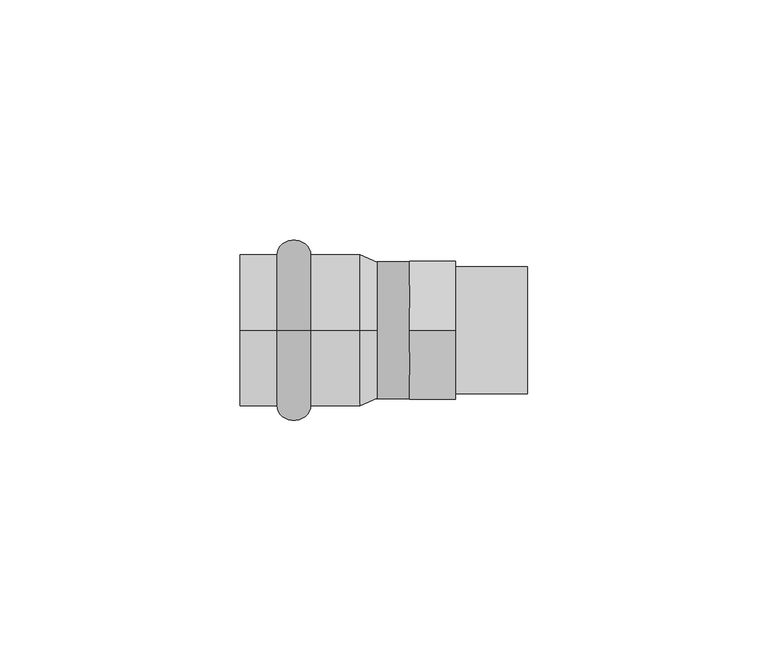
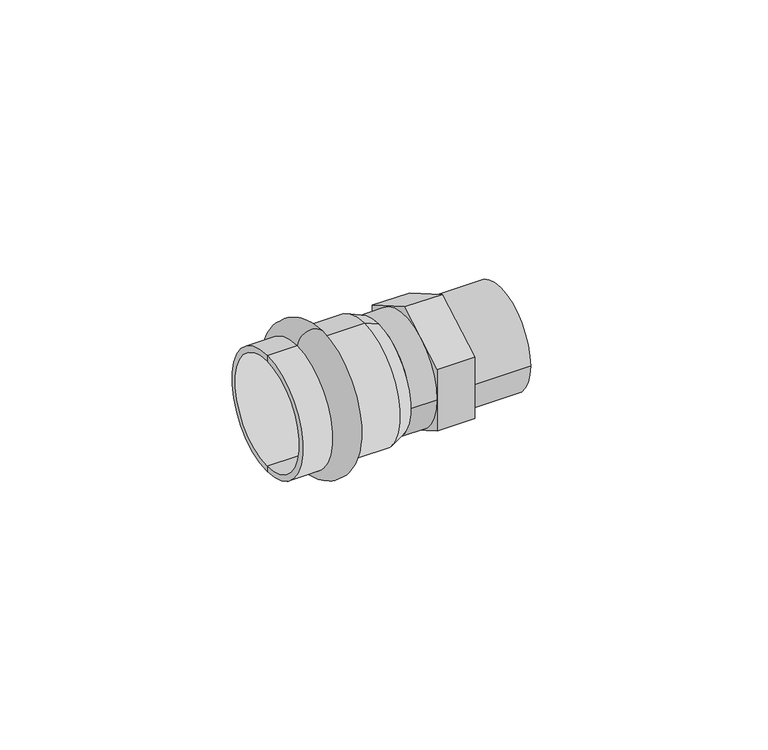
"""IFC4 building model written with IfcOpenShell, lengths in millimetres: pipe fitting geometry."""

from ifc_helpers import new_model, si_unit, point, frame, origin, origin_2d, place, context, project, spatial, polyline, circle_curve, ellipse_curve, trimmed, segment, composite_curve, outline, extrude, source, transform, mapped, element, save
from ifc_brep_helpers import plane_surface, cylinder_surface, revolved_surface, advanced_brep


def pipe_fitting_69dbfc6c(model_context):
    return source(origin(), model_context, "Body", "SolidModel", [
        advanced_brep(
        [(-17.3, 0.0, 15.75), (-17.3, 0.0, -15.75), (-10.3, 0.0, -15.75), (-10.3, 0.0, 15.75)],
        [
            (0, 1, circle_curve(frame((-17.3, 0.0, 0.0), z_axis=(-1.0, 0.0, 0.0), x_axis=(0.0, 0.0, -1.0)), 15.75)),
            (1, 2),
            (2, 3, circle_curve(frame((-10.3, 0.0, 0.0), z_axis=(1.0, 0.0, 0.0), x_axis=(0.0, 0.0, -1.0)), 15.75)),
            (3, 0),
            (1, 0, circle_curve(frame((-17.3, 0.0, 0.0), z_axis=(-1.0, 0.0, 0.0), x_axis=(0.0, 0.0, -1.0)), 15.75)),
            (3, 2, circle_curve(frame((-10.3, 0.0, 0.0), z_axis=(1.0, 0.0, 0.0), x_axis=(0.0, 0.0, -1.0)), 15.75)),
            (2, 1, ellipse_curve(frame((-13.8, 0.0, -15.75), z_axis=(0.0, 1.0, 0.0), x_axis=(-1.0, 0.0, 0.0)), 3.5, 3.1)),
            (0, 3, ellipse_curve(frame((-13.8, 0.0, 15.75), z_axis=(0.0, 1.0, 0.0), x_axis=(-1.0, 0.0, 0.0)), 3.5, 3.1)),
        ],
        [
            revolved_surface(polyline([(-10.3, 0.0, -15.75), (-17.3, 0.0, -15.75)]), (2.7, 0.0, 0.0), (1.0, 0.0, 0.0)),
            revolved_surface(trimmed(ellipse_curve(frame((-13.8, 0.0, -15.75), z_axis=(0.0, -1.0, 0.0), x_axis=(-1.0, 0.0, 0.0)), 3.5, 3.1), [point((-17.3, 0.0, -15.75))], [point((-10.3, 0.0, -15.75))], True, "CARTESIAN"), (2.7, 0.0, 0.0), (1.0, 0.0, 0.0)),
        ],
        [
            (0, [[1, 2, 3, 4]]),
            (0, [[5, -4, 6, -2]]),
            (1, [[-3, 7, -1, 8]]),
            (1, [[-6, -8, -5, -7]]),
        ],
    ),
        advanced_brep(
        [(3.5337785, 0.0, 14.25), (3.5337785, 0.0, -14.25), (0.0, 0.0, -15.75), (0.0, 0.0, 15.75), (-25.0, 0.0, 14.25), (-25.0, 0.0, -14.25), (-25.0, 0.0, 15.75), (-25.0, 0.0, -15.75)],
        [
            (0, 1, circle_curve(frame((3.5337785, 0.0, 0.0), z_axis=(-1.0, 0.0, 0.0), x_axis=(0.0, 0.0, -1.0)), 14.25)),
            (1, 2),
            (2, 3, circle_curve(frame((0.0, 0.0, 0.0), z_axis=(1.0, 0.0, 0.0), x_axis=(0.0, 0.0, -1.0)), 15.75)),
            (3, 0),
            (1, 0, circle_curve(frame((3.5337785, 0.0, 0.0), z_axis=(-1.0, 0.0, 0.0), x_axis=(0.0, 0.0, -1.0)), 14.25)),
            (3, 2, circle_curve(frame((0.0, 0.0, 0.0), z_axis=(1.0, 0.0, 0.0), x_axis=(0.0, 0.0, -1.0)), 15.75)),
            (4, 5, circle_curve(frame((-25.0, 0.0, 0.0), z_axis=(-1.0, 0.0, 0.0), x_axis=(0.0, 0.0, -1.0)), 14.25)),
            (5, 1),
            (0, 4),
            (5, 4, circle_curve(frame((-25.0, 0.0, 0.0), z_axis=(-1.0, 0.0, 0.0), x_axis=(0.0, 0.0, -1.0)), 14.25)),
            (6, 7, circle_curve(frame((-25.0, 0.0, 0.0), z_axis=(-1.0, 0.0, 0.0), x_axis=(0.0, 0.0, -1.0)), 15.75)),
            (7, 5),
            (4, 6),
            (7, 6, circle_curve(frame((-25.0, 0.0, 0.0), z_axis=(-1.0, 0.0, 0.0), x_axis=(0.0, 0.0, -1.0)), 15.75)),
            (2, 7),
            (6, 3),
        ],
        [
            revolved_surface(polyline([(0.0, 0.0, -15.75), (3.5337785, 0.0, -14.25)]), (2.7, 0.0, 0.0), (1.0, 0.0, 0.0)),
            revolved_surface(polyline([(3.5337785, 0.0, -14.25), (-25.0, 0.0, -14.25)]), (2.7, 0.0, 0.0), (1.0, 0.0, 0.0)),
            plane_surface(frame((-25.0, 0.0, 0.0), z_axis=(-1.0, 0.0, 0.0), x_axis=(0.0, 0.0, -1.0))),
            cylinder_surface(frame((2.7, 0.0, 0.0), z_axis=(1.0, 0.0, 0.0), x_axis=(0.0, 0.0, -1.0)), 15.75),
        ],
        [
            (0, [[1, 2, 3, 4]]),
            (0, [[5, -4, 6, -2]]),
            (1, [[7, 8, -1, 9]]),
            (1, [[10, -9, -5, -8]]),
            (2, [[11, 12, -7, 13]]),
            (2, [[14, -13, -10, -12]]),
            (3, [[-3, 15, -11, 16]]),
            (3, [[-6, -16, -14, -15]]),
        ],
    ),
        extrude(outline(composite_curve([segment(trimmed(circle_curve(origin_2d(), 13.25), [point((-13.25, 0.0))], [point((13.25, 0.0))], False, "CARTESIAN"), True, "CONTINUOUS"), segment(trimmed(circle_curve(origin_2d(), 13.25), [point((13.25, 0.0))], [point((-13.25, 0.0))], False, "CARTESIAN"), True, "CONTINUOUS")], self_intersect=False)), frame((19.8337785, 0.0, 0.0), z_axis=(1.0, 0.0, 0.0), x_axis=(0.0, 1.0, 0.0)), (0.0, 0.0, 1.0), 15.0),
        extrude(outline(composite_curve([segment(trimmed(circle_curve(origin_2d(), 14.25), [point((-14.25, 0.0))], [point((14.25, 0.0))], False, "CARTESIAN"), True, "CONTINUOUS"), segment(trimmed(circle_curve(origin_2d(), 14.25), [point((14.25, 0.0))], [point((-14.25, 0.0))], False, "CARTESIAN"), True, "CONTINUOUS")], self_intersect=False)), frame((3.5337785, 0.0, 0.0), z_axis=(1.0, 0.0, 0.0), x_axis=(0.0, 1.0, 0.0)), (0.0, 0.0, 1.0), 6.7),
        extrude(outline(polyline([(-14.4, 8.3138439), (0.0, 16.6276878), (14.4, 8.3138439), (14.4, -8.3138439), (0.0, -16.6276878), (-14.4, -8.3138439), (-14.4, 8.3138439)]), holes=[polyline([(0.0, -10.68098), (9.25, -5.34049), (9.25, 5.34049), (0.0, 10.68098), (-9.25, 5.34049), (-9.25, -5.34049), (0.0, -10.68098)])]), frame((10.2337785, 0.0, 0.0), z_axis=(1.0, 0.0, 0.0), x_axis=(0.0, 1.0, 0.0)), (0.0, 0.0, 1.0), 9.6),
    ])


if __name__ == "__main__":
    model = new_model("IFC4")
    model_context = context("Model", 3, world=origin())
    ifc_project = project(units=[si_unit("LENGTHUNIT", "METRE", prefix="MILLI")], contexts=[model_context])
    site = spatial("IfcSite", under=ifc_project)
    building = spatial("IfcBuilding", under=site)
    placement = place(None, origin())
    pipe_fitting_shape = pipe_fitting_69dbfc6c(model_context)
    element("IfcPipeFitting", 1, ObjectType="РЕХАУ_Пресс Муфта НР : 28 x R 3/4\"", at=placement, inside=building, context=model_context, shape_type="MappedRepresentation", body=[
        mapped(pipe_fitting_shape, transform((0.0, 0.0, 0.0), x_axis=(1.0, 0.0, 0.0), y_axis=(0.0, 1.0, 0.0), z_axis=(0.0, 0.0, 1.0))),
    ])
    save(model, "model.ifc")
